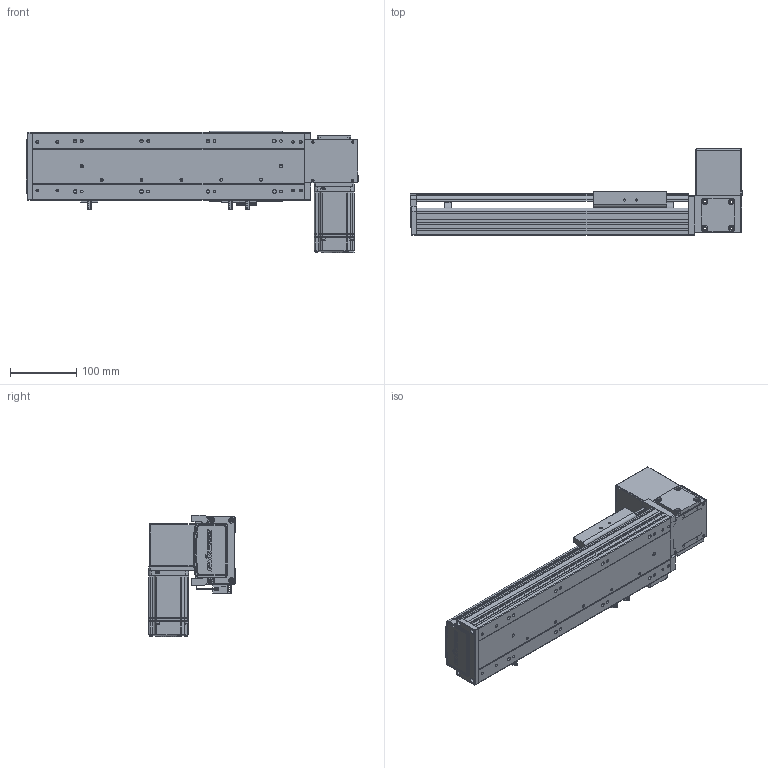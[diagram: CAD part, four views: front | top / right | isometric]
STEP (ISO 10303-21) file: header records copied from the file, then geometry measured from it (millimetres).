
FILE_DESCRIPTION (( 'STEP AP203' ), '1' );
FILE_NAME ('RY100-T-300-UL.SLDASM_200.step', '2024-04-25T08:39:03', ( '盈信电脑' ), ( '东莞市道滘镇水果街19号' ), 'SwSTEP 2.0', 'SolidWorks 2016', '' );
FILE_SCHEMA (( 'CONFIG_CONTROL_DESIGN' ));
Length unit declared in the file: millimetre
Products named in the file (15): RY100-T翋肮祭謫裔啣; RY100俋离覜茼え; RY100-T左右折电机安装板; RY100-T肮祭謫翋盓傅釱; RY100綴裔啣; RY100-T翋肮祭謫裔啣2; RY100-T-300-UL.SLDASM_200; RY80-T肮祭謫奻殏俋欶; 滅袉蝶18-10; 覜茼ん672; RY100-T-300-RK倰第奻裔_200; RY100-T粣創揤踡裔; RY100-T-300-RK倰第菁釱_200; 1; RY100-T肮祭謫臏賑輸
Assembly tree (17 placements, depth 2):
  RY100-T-300-UL.SLDASM_200
    RY100-T-300-RK倰第菁釱_200
    RY100-T-300-RK倰第奻裔_200
    RY100-T肮祭謫臏賑輸
    RY100綴裔啣
    覜茼ん672  x3
    RY100俋离覜茼え
    RY100-T肮祭謫翋盓傅釱
    滅袉蝶18-10  x2
    RY100-T翋肮祭謫裔啣2
    RY100-T翋肮祭謫裔啣
    1
    RY100-T左右折电机安装板
    RY80-T肮祭謫奻殏俋欶
    RY100-T粣創揤踡裔
Bounding box: 500 x 130.5 x 182.5 mm (x, y, z)
Volume: 1350718.4 mm3; surface area: 512596.7 mm2
Topology: 17 solids, 17 shells, 2107 faces, 5818 edges, 3774 vertices
Faces by surface type: plane 1191, cylinder 713, cone 125, bspline 78
Entity records: 66920 total; most frequent: CARTESIAN_POINT 15895, ORIENTED_EDGE 10468, DIRECTION 9976, EDGE_CURVE 5234, LINE 3480, VECTOR 3480, VERTEX_POINT 3442, AXIS2_PLACEMENT_3D 3248
